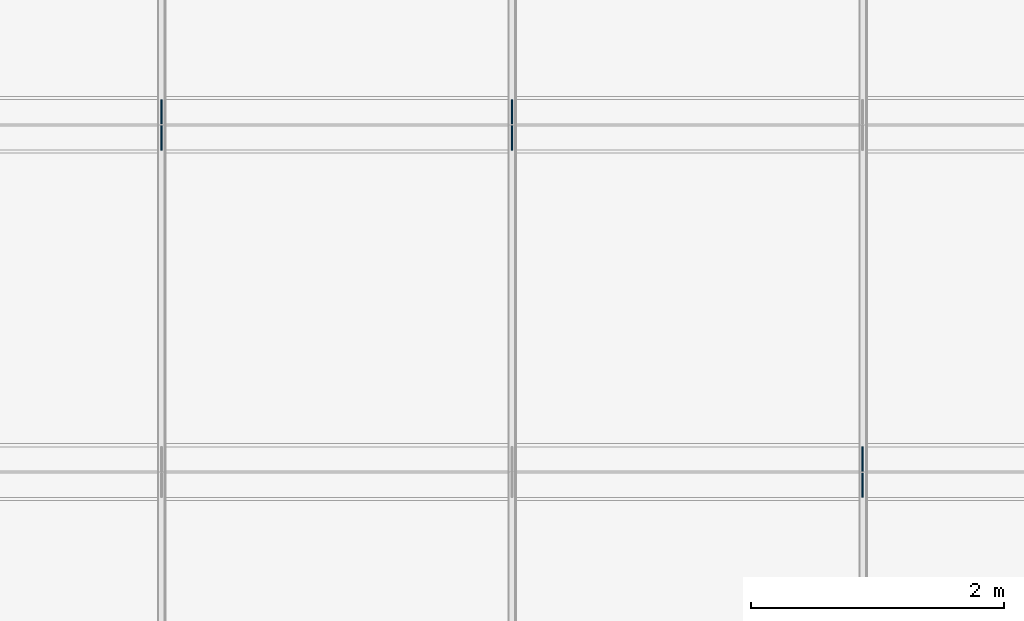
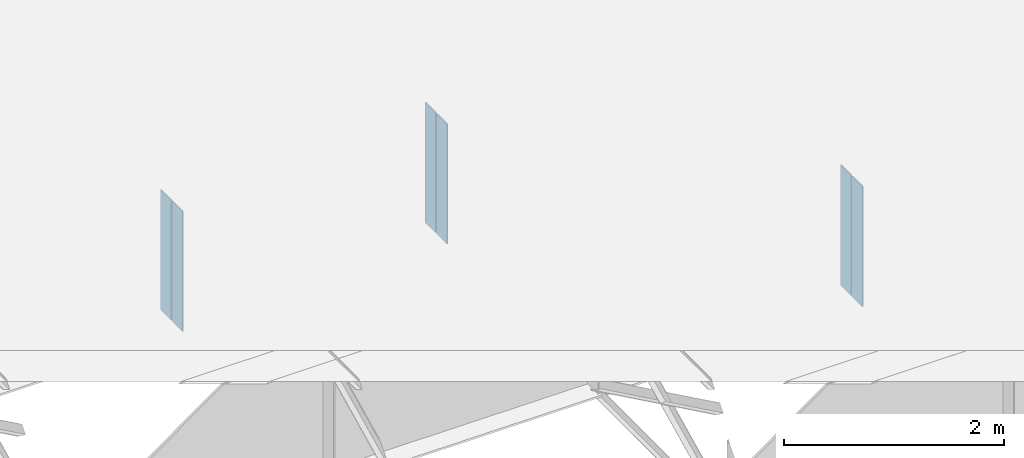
# One storey, part 6 of 10: 6 plates.
"""IFC4 building model written with IfcOpenShell, lengths in metres."""

from ifc_helpers import new_model, si_unit, frame, origin, origin_with_axes, origin_2d_with_axis, place, context, subcontext, project, spatial, rectangle, extrude, element, save


model = new_model("IFC4")

# Units and contexts
model_context = context("Model", 3, precision=1e-05, world=origin())
body_context = subcontext(model_context, "Body", "Model", "MODEL_VIEW")
ifc_project = project(units=[si_unit("LENGTHUNIT", "METRE"), si_unit("AREAUNIT", "SQUARE_METRE"), si_unit("VOLUMEUNIT", "CUBIC_METRE"), si_unit("PLANEANGLEUNIT", "RADIAN")], contexts=[model_context])

# Site, building, storey
site_placement = place(None, origin_with_axes())
site = spatial("IfcSite", under=ifc_project, at=site_placement, Name="Default Site")
building_placement = place(site_placement, origin_with_axes())
building = spatial("IfcBuilding", under=site, at=building_placement, Name="Bridge Structure")
storey_placement = place(building_placement, origin_with_axes())
storey = spatial("IfcBuildingStorey", under=building, at=storey_placement, Name="Superstructure")

# Plates
for number, where, z_axis, x_axis, name in (
    (1, (13.885, -1.2710000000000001, -0.6675), (0.0, 0.0, 1.0), (1.0, 0.0, 0.0), "Intermediate Stiffener 2"),
    (2, (13.885, -1.479, -0.6675), (0.0, 0.0, 1.0), (1.0, 0.0, 0.0), "Intermediate Stiffener 2"),
    (3, (8.331, 1.479, -0.6675), (0.0, 0.0, 1.0), (1.0, 0.0, 0.0), "Intermediate Stiffener 3"),
    (4, (8.331, 1.2710000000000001, -0.6675), (0.0, 0.0, 1.0), (1.0, 0.0, 0.0), "Intermediate Stiffener 3"),
    (5, (11.108, 1.479, -0.6675), (0.0, 0.0, 1.0), (1.0, 0.0, 0.0), "Intermediate Stiffener 3"),
    (6, (11.108, 1.2710000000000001, -0.6675), (0.0, 0.0, 1.0), (1.0, 0.0, 0.0), "Intermediate Stiffener 3"),
):
    element("IfcPlate", number, at=place(storey_placement, frame(where, z_axis=z_axis, x_axis=x_axis)), inside=storey, Name=name, context=body_context, shape_type="SweptSolid", body=[
        extrude(rectangle(XDim=0.012, YDim=0.192, at=origin_2d_with_axis()), origin_with_axes(), (0.0, 0.0, 1.0), 1.335),
    ])

save(model, "model.ifc")
